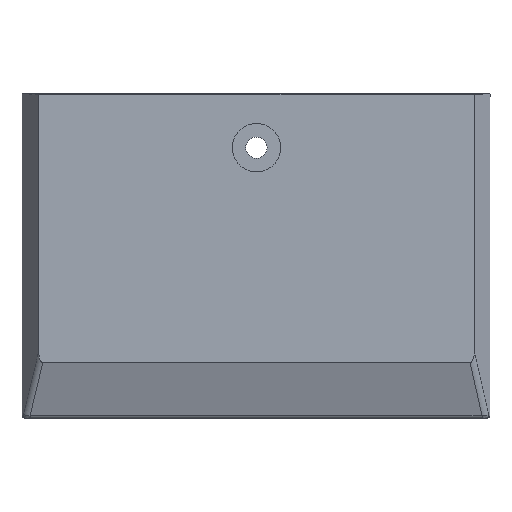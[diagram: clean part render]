
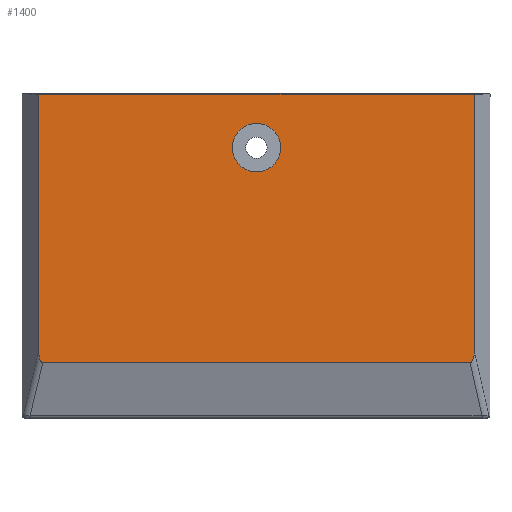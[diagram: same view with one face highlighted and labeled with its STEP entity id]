
A CAD part, front view. The second image highlights one B-rep face of the part: STEP entity #1400.
In plain terms, the highlighted planar face has unit normal (0, -1, 0).
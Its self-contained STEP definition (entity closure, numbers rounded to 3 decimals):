
#18 =( BOUNDED_CURVE ( )  B_SPLINE_CURVE ( 3, ( #2494, #659, #3205, #1715 ),
 .UNSPECIFIED., .F., .F. ) 
 B_SPLINE_CURVE_WITH_KNOTS ( ( 4, 4 ),
 ( 2.219, 3.217 ),
 .UNSPECIFIED. ) 
 CURVE ( )  GEOMETRIC_REPRESENTATION_ITEM ( )  RATIONAL_B_SPLINE_CURVE ( ( 1., 0.919, 0.919, 1. ) ) 
 REPRESENTATION_ITEM ( '' )  );
#90 = LINE ( 'NONE', #3130, #2807 ) ;
#142 = CARTESIAN_POINT ( 'NONE',  ( -29.15, 0., 21.65 ) ) ;
#230 = LINE ( 'NONE', #142, #2174 ) ;
#316 = CARTESIAN_POINT ( 'NONE',  ( 29.15, 0., -21.75 ) ) ;
#324 =( BOUNDED_CURVE ( )  B_SPLINE_CURVE ( 3, ( #382, #1658, #608, #2448 ),
 .UNSPECIFIED., .F., .F. ) 
 B_SPLINE_CURVE_WITH_KNOTS ( ( 4, 4 ),
 ( 6.212, 7.235 ),
 .UNSPECIFIED. ) 
 CURVE ( )  GEOMETRIC_REPRESENTATION_ITEM ( )  RATIONAL_B_SPLINE_CURVE ( ( 1., 0.915, 0.915, 1. ) ) 
 REPRESENTATION_ITEM ( '' )  );
#382 = CARTESIAN_POINT ( 'NONE',  ( 28.576, 0., -14.25 ) ) ;
#391 = CARTESIAN_POINT ( 'NONE',  ( 29.15, 0., -12.769 ) ) ;
#490 = VERTEX_POINT ( 'NONE', #391 ) ;
#525 = DIRECTION ( 'NONE',  ( 0., -1., 0. ) ) ;
#572 = DIRECTION ( 'NONE',  ( 0., -1., 0. ) ) ;
#608 = CARTESIAN_POINT ( 'NONE',  ( 29.15, 0., -13.71 ) ) ;
#641 = VERTEX_POINT ( 'NONE', #2753 ) ;
#659 = CARTESIAN_POINT ( 'NONE',  ( -29.15, 0., -13.736 ) ) ;
#754 = AXIS2_PLACEMENT_3D ( 'NONE', #2127, #572, #2401 ) ;
#812 = DIRECTION ( 'NONE',  ( 0., 0., 1. ) ) ;
#846 = DIRECTION ( 'NONE',  ( 0., 1., 0. ) ) ;
#875 = CARTESIAN_POINT ( 'NONE',  ( 0., 0., 0. ) ) ;
#897 = CIRCLE ( 'NONE', #906, 3.25 ) ;
#904 = FACE_OUTER_BOUND ( 'NONE', #1391, .T. ) ;
#906 = AXIS2_PLACEMENT_3D ( 'NONE', #2070, #525, #2338 ) ;
#978 = VECTOR ( 'NONE', #2403, 1000. ) ;
#1013 = ORIENTED_EDGE ( 'NONE', *, *, #2838, .F. ) ;
#1036 = PLANE ( 'NONE',  #1049 ) ;
#1049 = AXIS2_PLACEMENT_3D ( 'NONE', #875, #846, #812 ) ;
#1062 = LINE ( 'NONE', #2131, #978 ) ;
#1091 = ORIENTED_EDGE ( 'NONE', *, *, #2848, .T. ) ;
#1205 = CARTESIAN_POINT ( 'NONE',  ( 0., 0., 17.75 ) ) ;
#1391 = EDGE_LOOP ( 'NONE', ( #2984, #1013, #2370, #3044, #1091, #1772 ) ) ;
#1394 = DIRECTION ( 'NONE',  ( 1., 0., 0. ) ) ;
#1400 = ADVANCED_FACE ( 'NONE', ( #2277, #904 ), #1036, .F. ) ;
#1563 = VERTEX_POINT ( 'NONE', #3034 ) ;
#1646 = DIRECTION ( 'NONE',  ( 0., 0., 1. ) ) ;
#1655 = EDGE_CURVE ( 'NONE', #3100, #2638, #897, .T. ) ;
#1658 = CARTESIAN_POINT ( 'NONE',  ( 28.941, 0., -14.25 ) ) ;
#1694 = CARTESIAN_POINT ( 'NONE',  ( 0., 0., 11.25 ) ) ;
#1715 = CARTESIAN_POINT ( 'NONE',  ( -28.591, 0., -14.25 ) ) ;
#1724 = VERTEX_POINT ( 'NONE', #3016 ) ;
#1772 = ORIENTED_EDGE ( 'NONE', *, *, #2669, .T. ) ;
#1975 = EDGE_LOOP ( 'NONE', ( #2213, #2906 ) ) ;
#2070 = CARTESIAN_POINT ( 'NONE',  ( 0., 0., 14.5 ) ) ;
#2127 = CARTESIAN_POINT ( 'NONE',  ( 0., 0., 14.5 ) ) ;
#2131 = CARTESIAN_POINT ( 'NONE',  ( -31.49, 0., -14.25 ) ) ;
#2174 = VECTOR ( 'NONE', #1394, 1000. ) ;
#2213 = ORIENTED_EDGE ( 'NONE', *, *, #1655, .F. ) ;
#2277 = FACE_BOUND ( 'NONE', #1975, .T. ) ;
#2338 = DIRECTION ( 'NONE',  ( 0., 0., -1. ) ) ;
#2347 = EDGE_CURVE ( 'NONE', #1724, #1563, #1062, .T. ) ;
#2366 = EDGE_CURVE ( 'NONE', #641, #3105, #230, .T. ) ;
#2370 = ORIENTED_EDGE ( 'NONE', *, *, #2796, .T. ) ;
#2401 = DIRECTION ( 'NONE',  ( 0., 0., -1. ) ) ;
#2403 = DIRECTION ( 'NONE',  ( 1., 0., 0. ) ) ;
#2448 = CARTESIAN_POINT ( 'NONE',  ( 29.15, 0., -12.769 ) ) ;
#2494 = CARTESIAN_POINT ( 'NONE',  ( -29.15, 0., -12.834 ) ) ;
#2541 = EDGE_CURVE ( 'NONE', #2638, #3100, #2853, .T. ) ;
#2555 = VECTOR ( 'NONE', #2647, 1000. ) ;
#2638 = VERTEX_POINT ( 'NONE', #1205 ) ;
#2647 = DIRECTION ( 'NONE',  ( 0., 0., 1. ) ) ;
#2669 = EDGE_CURVE ( 'NONE', #490, #3105, #3177, .T. ) ;
#2753 = CARTESIAN_POINT ( 'NONE',  ( -29.15, 0., 21.65 ) ) ;
#2757 = CARTESIAN_POINT ( 'NONE',  ( 29.15, 0., 21.65 ) ) ;
#2796 = EDGE_CURVE ( 'NONE', #3193, #1724, #18, .T. ) ;
#2807 = VECTOR ( 'NONE', #1646, 1000. ) ;
#2838 = EDGE_CURVE ( 'NONE', #3193, #641, #90, .T. ) ;
#2848 = EDGE_CURVE ( 'NONE', #1563, #490, #324, .T. ) ;
#2853 = CIRCLE ( 'NONE', #754, 3.25 ) ;
#2906 = ORIENTED_EDGE ( 'NONE', *, *, #2541, .F. ) ;
#2984 = ORIENTED_EDGE ( 'NONE', *, *, #2366, .F. ) ;
#3016 = CARTESIAN_POINT ( 'NONE',  ( -28.591, 0., -14.25 ) ) ;
#3034 = CARTESIAN_POINT ( 'NONE',  ( 28.576, 0., -14.25 ) ) ;
#3044 = ORIENTED_EDGE ( 'NONE', *, *, #2347, .T. ) ;
#3100 = VERTEX_POINT ( 'NONE', #1694 ) ;
#3105 = VERTEX_POINT ( 'NONE', #2757 ) ;
#3130 = CARTESIAN_POINT ( 'NONE',  ( -29.15, 0., -21.75 ) ) ;
#3177 = LINE ( 'NONE', #316, #2555 ) ;
#3193 = VERTEX_POINT ( 'NONE', #3204 ) ;
#3204 = CARTESIAN_POINT ( 'NONE',  ( -29.15, 0., -12.834 ) ) ;
#3205 = CARTESIAN_POINT ( 'NONE',  ( -28.947, 0., -14.25 ) ) ;
